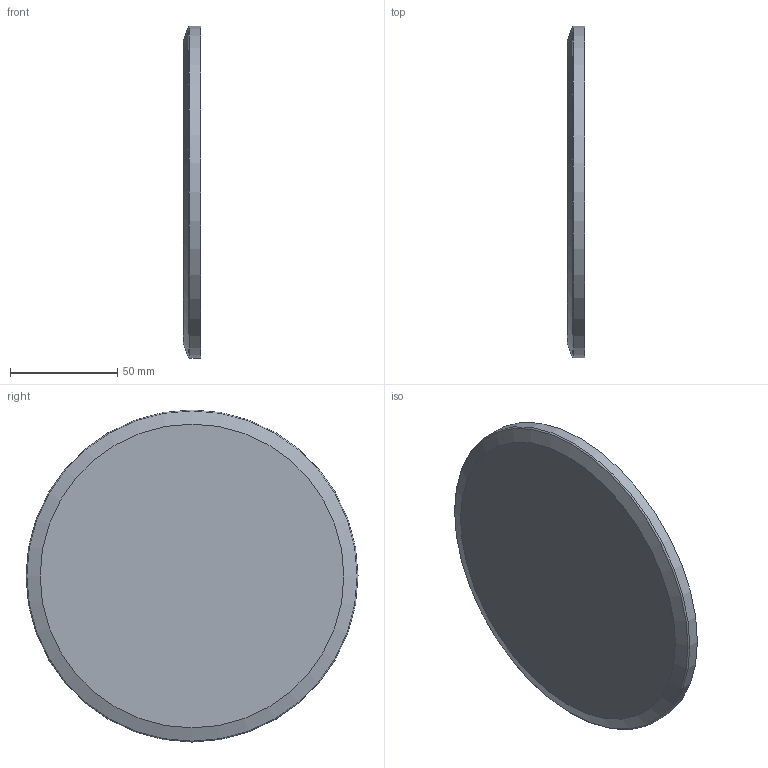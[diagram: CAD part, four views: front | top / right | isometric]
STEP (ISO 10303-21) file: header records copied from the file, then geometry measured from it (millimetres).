
FILE_DESCRIPTION(/* description */ (''),/* implementation_level */ '2;1');
FILE_NAME(/* name */ '12766-Ferrule size-155.stp',/* time_stamp */ '2024-12-26T21:14:08+01:00',/* author */ ('roger.thijssen'),/* organization */ (''),/* preprocessor_version */ 'ST-DEVELOPER v20',/* originating_system */ 'Autodesk Inventor 2025',/* authorisation */ '');
FILE_SCHEMA (('AUTOMOTIVE_DESIGN { 1 0 10303 214 3 1 1 }'));
Length unit declared in the file: millimetre
Products named in the file (1): 12766-Ferrule size-155
Bounding box: 8 x 155 x 155 mm (x, y, z)
Volume: 145574.4 mm3; surface area: 41281 mm2
Topology: 1 solids, 1 shells, 11 faces, 22 edges, 14 vertices
Faces by surface type: torus 4, plane 3, cone 3, cylinder 1
Full cylindrical faces by diameter (mm): 155 x1
Entity records: 361 total; most frequent: DIRECTION 64, CARTESIAN_POINT 48, ORIENTED_EDGE 44, AXIS2_PLACEMENT_3D 30, EDGE_CURVE 22, CIRCLE 18, VERTEX_POINT 14, EDGE_LOOP 12
